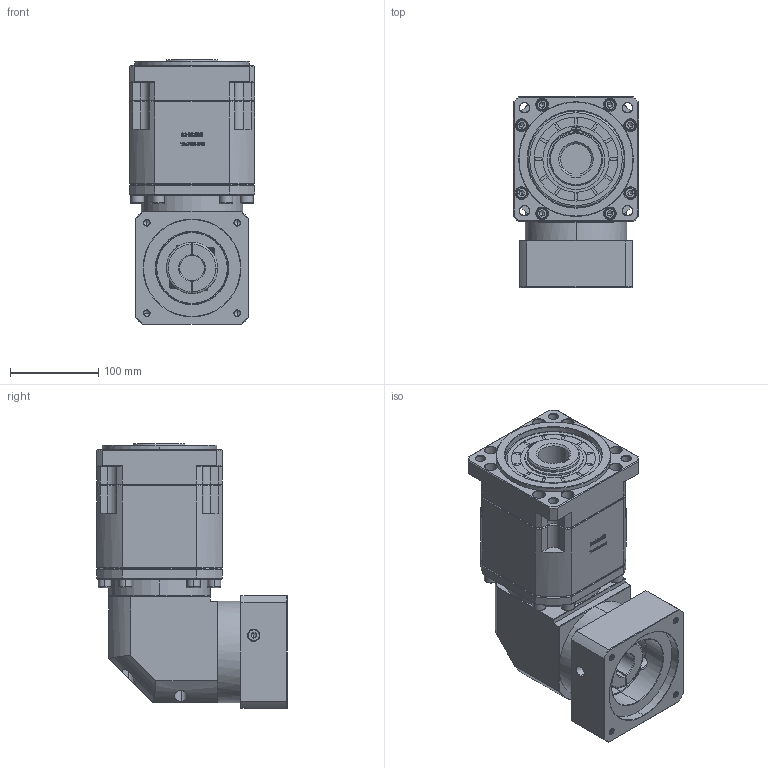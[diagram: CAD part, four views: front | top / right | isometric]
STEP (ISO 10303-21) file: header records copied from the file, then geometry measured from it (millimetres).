
FILE_DESCRIPTION (( 'STEP AP214' ), '1' );
FILE_NAME ('ZBR142A-K35-L3-28-110-145-M8.step', '2023-03-20T04:18:12', ( '' ), ( '' ), 'SwSTEP 2.0', 'SolidWorks 2016', '' );
FILE_SCHEMA (( 'AUTOMOTIVE_DESIGN' ));
Length unit declared in the file: millimetre
Products named in the file (1): ZBR142A-K35-L3-28-110-145-M8
Bounding box: 142 x 215.9 x 300.2 mm (x, y, z)
Volume: 5173837 mm3; surface area: 346480.3 mm2
Topology: 6 solids, 6 shells, 3132 faces, 8257 edges, 5289 vertices
Faces by surface type: plane 1646, bspline 586, cylinder 465, cone 391, torus 44
Entity records: 164106 total; most frequent: CARTESIAN_POINT 56722, ORIENTED_EDGE 16410, DIRECTION 12859, EDGE_CURVE 8205, LINE 5533, VECTOR 5533, VERTEX_POINT 5289, AXIS2_PLACEMENT_3D 3663
